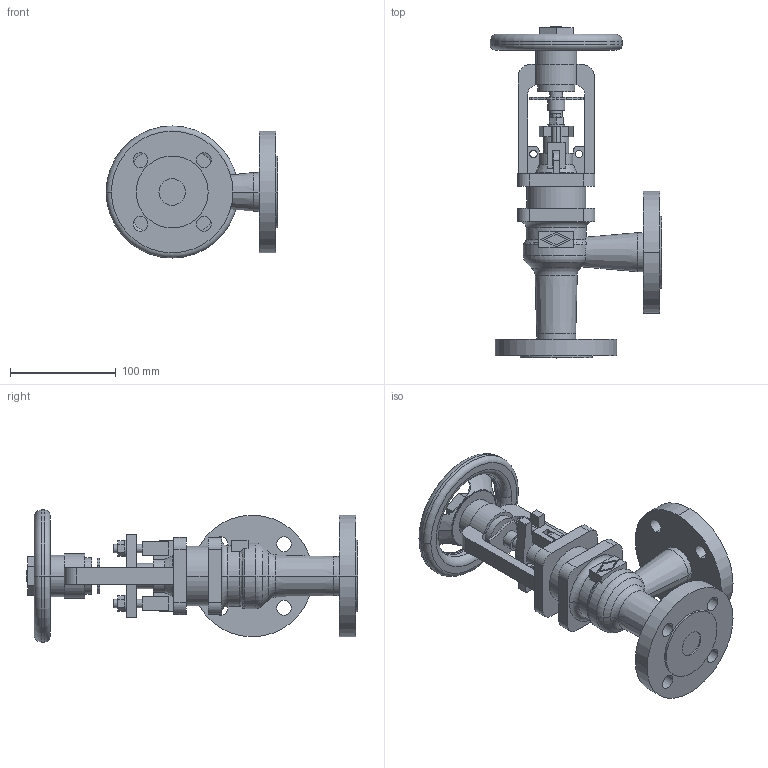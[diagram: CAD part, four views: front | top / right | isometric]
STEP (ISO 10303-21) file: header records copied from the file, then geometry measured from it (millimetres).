
FILE_DESCRIPTION(('OneSpaceDesigner STEP Export'),'2;1');
FILE_NAME('c000004447.stp','2010-05-17T 9:54:52',(''),(''),'OneSpace Designer STEP processor for AP214 (Solid Model)','OneSpace Modeling 15.50B 03-Nov-2007 (C) CoCreate Software GmbH','');
FILE_SCHEMA(('AUTOMOTIVE_DESIGN { 1 0 10303 214 1 1 1 1 }'));
Length unit declared in the file: millimetre
Products named in the file (1): 1
Bounding box: 162.5 x 314 x 125 mm (x, y, z)
Volume: 1010018.8 mm3; surface area: 168523.7 mm2
Topology: 1 solids, 1 shells, 297 faces, 786 edges, 514 vertices
Faces by surface type: plane 140, cylinder 115, torus 26, cone 16
Entity records: 11604 total; most frequent: CARTESIAN_POINT 2167, ORIENTED_EDGE 1572, DIRECTION 1325, EDGE_CURVE 786, VERTEX_POINT 514, AXIS2_PLACEMENT_3D 450, VECTOR 425, LINE 425
